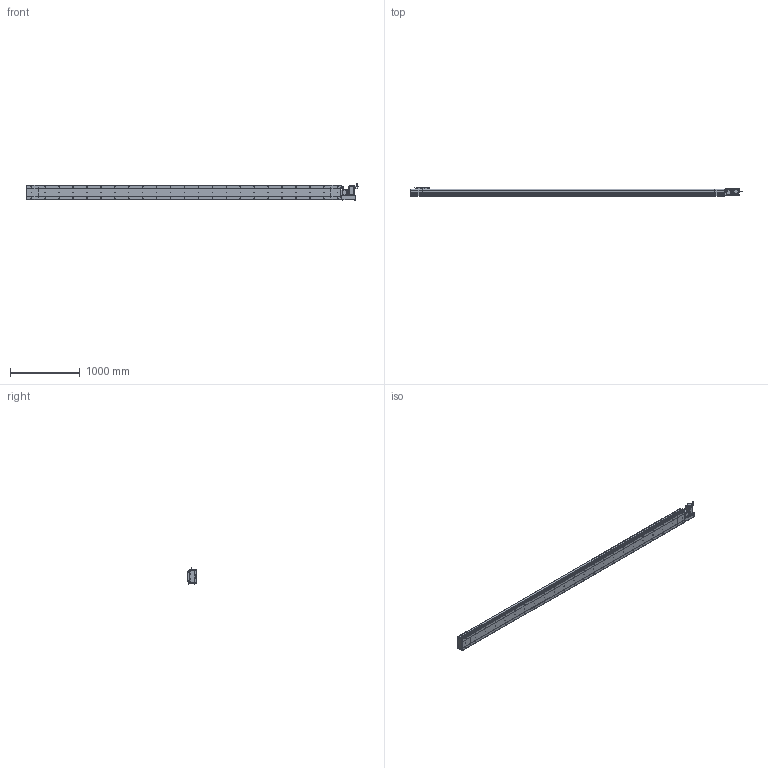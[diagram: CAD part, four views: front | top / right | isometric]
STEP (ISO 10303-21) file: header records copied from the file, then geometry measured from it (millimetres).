
FILE_DESCRIPTION (( 'STEP AP214' ), '1' );
FILE_NAME ('D20 CBH RH S4200.STEP', '2010-06-30T11:27:27', ( 'Conseil Régional Haute-Normandie' ), ( 'Conseil Régional Haute-Normandie' ), 'SwSTEP 2.0', 'SolidWorks 2010', '' );
FILE_SCHEMA (( 'AUTOMOTIVE_DESIGN' ));
Length unit declared in the file: millimetre
Products named in the file (31): Couvercle RH_Default; Head D20 RH_Default; Conecteur_Default; vis M5 L47_Default; Cache Support Moteur RH_Default; Corp D20 S4200_Default; Corp S4200_Default; Couvercle S4200_Default; Chariot D20_Default; Support Chariot D20_Default; D20 CBH RH S4200; Glissiere_Default; codeur 90BLDC125-640; Plaque De Serrage D20_Default; vis M5 L15_Default; Plaque de Bout Head D20 RH_Default; Plaque De Serrage D20 RH_Default; Conecteur2_Default; Rondelle Cache D20 RH_Default; Support moteur RH_Default; Moteur motionking 90BLDC125A-640; avant 90BLDC125A-640; Corp Tail D20 RH_Default; corps 90BLDC125A-640; ecrou_Default; vis M5 L30_Default; Tail D20_Default; Corp Tail D20_Default; Couvercle_Default; Plaque de Bout Tail D20_Default
Assembly tree (68 placements, depth 4):
  D20 CBH RH S4200
    Corp D20 S4200_Default
      Couvercle S4200_Default
      Corp S4200_Default
    Head D20 RH_Default
      vis M5 L30_Default  x4
      Corp Tail D20 RH_Default
      vis M5 L15_Default  x14
      Plaque De Serrage D20 RH_Default
      Rondelle Cache D20 RH_Default  x3
      Cache Support Moteur RH_Default
      Moteur motionking 90BLDC125A-640
        corps 90BLDC125A-640
        avant 90BLDC125A-640
        Conecteur2_Default
        codeur 90BLDC125-640
        Conecteur_Default
      ecrou_Default  x4
      vis M5 L47_Default  x4
      Couvercle RH_Default
      Support moteur RH_Default
      Plaque de Bout Head D20 RH_Default
    Chariot D20_Default
      vis M5 L15_Default  x8
      Support Chariot D20_Default
      Chariot D20_Default
      Glissiere_Default
    Tail D20_Default
      Plaque de Bout Tail D20_Default
      vis M5 L15_Default  x6
      Plaque De Serrage D20_Default
      Corp Tail D20_Default
      Couvercle_Default
Bounding box: 4765.45 x 119.5 x 229.7 mm (x, y, z)
Volume: 30823099 mm3; surface area: 5864442.8 mm2
Topology: 105 solids, 105 shells, 3916 faces, 9696 edges, 6298 vertices
Faces by surface type: plane 2161, bspline 806, cylinder 778, torus 95, cone 72, sphere 4
Entity records: 162062 total; most frequent: CARTESIAN_POINT 82742, ORIENTED_EDGE 15660, DIRECTION 12142, EDGE_CURVE 7830, VERTEX_POINT 5182, LINE 5002, VECTOR 5002, AXIS2_PLACEMENT_3D 3570
